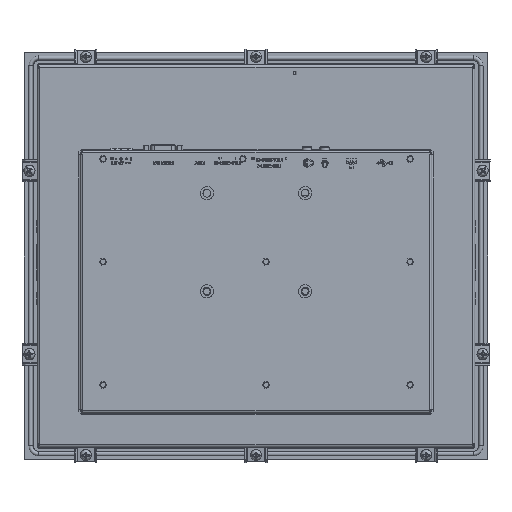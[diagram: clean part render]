
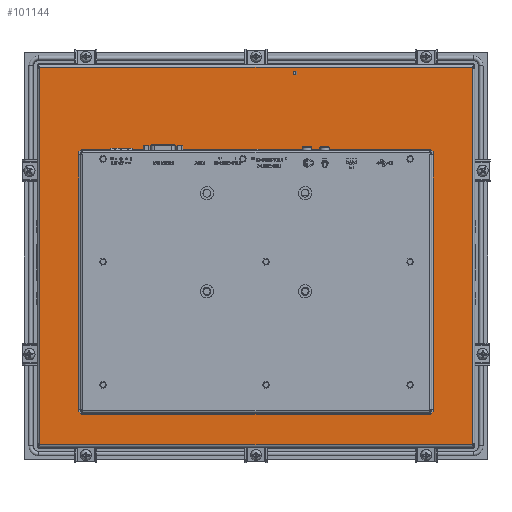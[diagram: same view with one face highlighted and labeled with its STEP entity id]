
A CAD part, front view. The second image highlights one B-rep face of the part: STEP entity #101144.
In plain terms, the highlighted planar face has unit normal (0, -1, 0).
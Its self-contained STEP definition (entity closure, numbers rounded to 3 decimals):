
#1330 = CARTESIAN_POINT ( 'NONE',  ( 107.375, -19.35, 112.327 ) ) ;
#2718 = CARTESIAN_POINT ( 'NONE',  ( -135.25, -19.35, 86.452 ) ) ;
#2801 = CARTESIAN_POINT ( 'NONE',  ( 165.2, -19.35, 149.152 ) ) ;
#3476 = LINE ( 'NONE', #63199, #100062 ) ;
#3820 = CARTESIAN_POINT ( 'NONE',  ( -107.375, -19.35, 112.327 ) ) ;
#5643 = EDGE_LOOP ( 'NONE', ( #23267, #97076, #34945, #80883, #82656, #124807, #108048, #91647 ) ) ;
#5785 = EDGE_CURVE ( 'NONE', #120142, #54765, #11711, .T. ) ;
#6732 = ORIENTED_EDGE ( 'NONE', *, *, #21492, .T. ) ;
#7604 = VECTOR ( 'NONE', #24232, 1000. ) ;
#7963 = CARTESIAN_POINT ( 'NONE',  ( 133.25, -19.35, -116.048 ) ) ;
#7964 = ORIENTED_EDGE ( 'NONE', *, *, #144691, .T. ) ;
#8026 = DIRECTION ( 'NONE',  ( 0., 0., 1. ) ) ;
#9502 = VECTOR ( 'NONE', #47846, 1000. ) ;
#9518 = EDGE_CURVE ( 'NONE', #63120, #19635, #45329, .T. ) ;
#11460 = VERTEX_POINT ( 'NONE', #40805 ) ;
#11711 = LINE ( 'NONE', #68569, #117266 ) ;
#11813 = VERTEX_POINT ( 'NONE', #57533 ) ;
#13108 = LINE ( 'NONE', #1330, #44141 ) ;
#13603 = VECTOR ( 'NONE', #28145, 1000. ) ;
#15024 = ORIENTED_EDGE ( 'NONE', *, *, #55110, .T. ) ;
#19635 = VERTEX_POINT ( 'NONE', #24380 ) ;
#19854 = EDGE_CURVE ( 'NONE', #19635, #95293, #3476, .T. ) ;
#21492 = EDGE_CURVE ( 'NONE', #55809, #43149, #77769, .T. ) ;
#22975 = DIRECTION ( 'NONE',  ( 0., 0., -1. ) ) ;
#23267 = ORIENTED_EDGE ( 'NONE', *, *, #124023, .T. ) ;
#23536 = ORIENTED_EDGE ( 'NONE', *, *, #87904, .T. ) ;
#23608 = FACE_OUTER_BOUND ( 'NONE', #5643, .T. ) ;
#24232 = DIRECTION ( 'NONE',  ( -1., 0., 0. ) ) ;
#24380 = CARTESIAN_POINT ( 'NONE',  ( -165.2, -19.35, 149.152 ) ) ;
#26470 = CARTESIAN_POINT ( 'NONE',  ( -133.25, -19.35, 86.452 ) ) ;
#26501 = EDGE_CURVE ( 'NONE', #86420, #55809, #138480, .T. ) ;
#27649 = VECTOR ( 'NONE', #99174, 1000. ) ;
#28145 = DIRECTION ( 'NONE',  ( 0.707, 0., 0.707 ) ) ;
#32552 = CARTESIAN_POINT ( 'NONE',  ( -133.25, -19.35, -116.048 ) ) ;
#34568 = CARTESIAN_POINT ( 'NONE',  ( -165.2, -19.35, -139.248 ) ) ;
#34945 = ORIENTED_EDGE ( 'NONE', *, *, #5785, .T. ) ;
#35894 = CARTESIAN_POINT ( 'NONE',  ( 165.2, -19.35, -138.277 ) ) ;
#37016 = VERTEX_POINT ( 'NONE', #32552 ) ;
#37512 = VECTOR ( 'NONE', #139920, 1000. ) ;
#37607 = ORIENTED_EDGE ( 'NONE', *, *, #41879, .T. ) ;
#37872 = CARTESIAN_POINT ( 'NONE',  ( -165.2, -19.35, 148.181 ) ) ;
#40805 = CARTESIAN_POINT ( 'NONE',  ( 133.25, -19.35, 86.452 ) ) ;
#41679 = DIRECTION ( 'NONE',  ( -0.707, 0., 0.707 ) ) ;
#41879 = EDGE_CURVE ( 'NONE', #88205, #88878, #121217, .T. ) ;
#43149 = VERTEX_POINT ( 'NONE', #7963 ) ;
#43616 = DIRECTION ( 'NONE',  ( 0., 0., -1. ) ) ;
#44141 = VECTOR ( 'NONE', #88460, 1000. ) ;
#45329 = LINE ( 'NONE', #89520, #27649 ) ;
#45722 = VECTOR ( 'NONE', #53709, 1000. ) ;
#47310 = FACE_BOUND ( 'NONE', #51436, .T. ) ;
#47846 = DIRECTION ( 'NONE',  ( 1., 0., 0. ) ) ;
#49651 = LINE ( 'NONE', #3820, #13603 ) ;
#50087 = VECTOR ( 'NONE', #22975, 1000. ) ;
#50407 = EDGE_CURVE ( 'NONE', #54765, #63120, #75768, .T. ) ;
#51393 = EDGE_CURVE ( 'NONE', #11813, #120142, #95975, .T. ) ;
#51436 = EDGE_LOOP ( 'NONE', ( #15024, #115892, #80138, #6732, #7964, #23536, #37607, #82151 ) ) ;
#52474 = LINE ( 'NONE', #121148, #59072 ) ;
#53661 = VECTOR ( 'NONE', #119742, 1000. ) ;
#53709 = DIRECTION ( 'NONE',  ( 0., 0., 1. ) ) ;
#54765 = VERTEX_POINT ( 'NONE', #93698 ) ;
#55110 = EDGE_CURVE ( 'NONE', #126305, #11460, #140126, .T. ) ;
#55730 = LINE ( 'NONE', #123714, #97257 ) ;
#55809 = VERTEX_POINT ( 'NONE', #69837 ) ;
#56532 = EDGE_CURVE ( 'NONE', #79275, #88364, #52474, .T. ) ;
#57533 = CARTESIAN_POINT ( 'NONE',  ( 165.2, -19.35, -139.248 ) ) ;
#59072 = VECTOR ( 'NONE', #43616, 1000. ) ;
#61545 = CARTESIAN_POINT ( 'NONE',  ( -165.2, -19.35, -138.277 ) ) ;
#62642 = CARTESIAN_POINT ( 'NONE',  ( -135.25, -19.35, -114.048 ) ) ;
#63120 = VERTEX_POINT ( 'NONE', #2801 ) ;
#63199 = CARTESIAN_POINT ( 'NONE',  ( -165.2, -19.35, 4.952 ) ) ;
#63488 = CARTESIAN_POINT ( 'NONE',  ( -135.25, -19.35, -116.048 ) ) ;
#68569 = CARTESIAN_POINT ( 'NONE',  ( 165.2, -19.35, 4.952 ) ) ;
#69837 = CARTESIAN_POINT ( 'NONE',  ( 135.25, -19.35, -114.048 ) ) ;
#71911 = CARTESIAN_POINT ( 'NONE',  ( 135.25, -19.35, -116.048 ) ) ;
#75768 = LINE ( 'NONE', #109857, #45722 ) ;
#77769 = LINE ( 'NONE', #108964, #135631 ) ;
#79275 = VERTEX_POINT ( 'NONE', #61545 ) ;
#79607 = LINE ( 'NONE', #136566, #7604 ) ;
#79727 = PLANE ( 'NONE',  #129353 ) ;
#80138 = ORIENTED_EDGE ( 'NONE', *, *, #26501, .T. ) ;
#80883 = ORIENTED_EDGE ( 'NONE', *, *, #50407, .T. ) ;
#81170 = DIRECTION ( 'NONE',  ( 0., 1., 0. ) ) ;
#82151 = ORIENTED_EDGE ( 'NONE', *, *, #102027, .T. ) ;
#82656 = ORIENTED_EDGE ( 'NONE', *, *, #9518, .T. ) ;
#86420 = VERTEX_POINT ( 'NONE', #102494 ) ;
#87904 = EDGE_CURVE ( 'NONE', #37016, #88205, #132497, .T. ) ;
#88205 = VERTEX_POINT ( 'NONE', #62642 ) ;
#88364 = VERTEX_POINT ( 'NONE', #34568 ) ;
#88460 = DIRECTION ( 'NONE',  ( 0.707, 0., -0.707 ) ) ;
#88878 = VERTEX_POINT ( 'NONE', #112549 ) ;
#89520 = CARTESIAN_POINT ( 'NONE',  ( 0., -19.35, 149.152 ) ) ;
#90368 = DIRECTION ( 'NONE',  ( 1., 0., 0. ) ) ;
#91647 = ORIENTED_EDGE ( 'NONE', *, *, #56532, .T. ) ;
#91929 = VECTOR ( 'NONE', #41679, 1000. ) ;
#93698 = CARTESIAN_POINT ( 'NONE',  ( 165.2, -19.35, 148.181 ) ) ;
#95293 = VERTEX_POINT ( 'NONE', #37872 ) ;
#95975 = LINE ( 'NONE', #109324, #105367 ) ;
#97076 = ORIENTED_EDGE ( 'NONE', *, *, #51393, .T. ) ;
#97257 = VECTOR ( 'NONE', #90368, 1000. ) ;
#99174 = DIRECTION ( 'NONE',  ( -1., 0., 0. ) ) ;
#100062 = VECTOR ( 'NONE', #119449, 1000. ) ;
#101144 = ADVANCED_FACE ( 'NONE', ( #23608, #47310 ), #79727, .F. ) ;
#101226 = CARTESIAN_POINT ( 'NONE',  ( 0., -19.35, 4.952 ) ) ;
#102027 = EDGE_CURVE ( 'NONE', #88878, #126305, #49651, .T. ) ;
#102494 = CARTESIAN_POINT ( 'NONE',  ( 135.25, -19.35, 84.452 ) ) ;
#102629 = DIRECTION ( 'NONE',  ( 0., 0., 1. ) ) ;
#103505 = CARTESIAN_POINT ( 'NONE',  ( -165.2, -19.35, 4.952 ) ) ;
#105367 = VECTOR ( 'NONE', #8026, 1000. ) ;
#108048 = ORIENTED_EDGE ( 'NONE', *, *, #119345, .T. ) ;
#108964 = CARTESIAN_POINT ( 'NONE',  ( 127.125, -19.35, -122.173 ) ) ;
#109324 = CARTESIAN_POINT ( 'NONE',  ( 165.2, -19.35, 4.952 ) ) ;
#109857 = CARTESIAN_POINT ( 'NONE',  ( 165.2, -19.35, 4.952 ) ) ;
#111686 = LINE ( 'NONE', #103505, #50087 ) ;
#112549 = CARTESIAN_POINT ( 'NONE',  ( -135.25, -19.35, 84.452 ) ) ;
#115892 = ORIENTED_EDGE ( 'NONE', *, *, #139409, .T. ) ;
#117266 = VECTOR ( 'NONE', #102629, 1000. ) ;
#119345 = EDGE_CURVE ( 'NONE', #95293, #79275, #111686, .T. ) ;
#119449 = DIRECTION ( 'NONE',  ( 0., 0., -1. ) ) ;
#119742 = DIRECTION ( 'NONE',  ( 0., 0., 1. ) ) ;
#120142 = VERTEX_POINT ( 'NONE', #35894 ) ;
#121148 = CARTESIAN_POINT ( 'NONE',  ( -165.2, -19.35, 4.952 ) ) ;
#121217 = LINE ( 'NONE', #63488, #53661 ) ;
#123714 = CARTESIAN_POINT ( 'NONE',  ( 0., -19.35, -139.248 ) ) ;
#124023 = EDGE_CURVE ( 'NONE', #88364, #11813, #55730, .T. ) ;
#124807 = ORIENTED_EDGE ( 'NONE', *, *, #19854, .T. ) ;
#126305 = VERTEX_POINT ( 'NONE', #26470 ) ;
#126357 = DIRECTION ( 'NONE',  ( -1., 0., 0. ) ) ;
#129353 = AXIS2_PLACEMENT_3D ( 'NONE', #101226, #81170, #126357 ) ;
#132497 = LINE ( 'NONE', #142866, #91929 ) ;
#135631 = VECTOR ( 'NONE', #142192, 1000. ) ;
#136566 = CARTESIAN_POINT ( 'NONE',  ( -135.25, -19.35, -116.048 ) ) ;
#138480 = LINE ( 'NONE', #71911, #37512 ) ;
#139409 = EDGE_CURVE ( 'NONE', #11460, #86420, #13108, .T. ) ;
#139920 = DIRECTION ( 'NONE',  ( 0., 0., -1. ) ) ;
#140126 = LINE ( 'NONE', #2718, #9502 ) ;
#142192 = DIRECTION ( 'NONE',  ( -0.707, 0., -0.707 ) ) ;
#142866 = CARTESIAN_POINT ( 'NONE',  ( -127.125, -19.35, -122.173 ) ) ;
#144691 = EDGE_CURVE ( 'NONE', #43149, #37016, #79607, .T. ) ;
